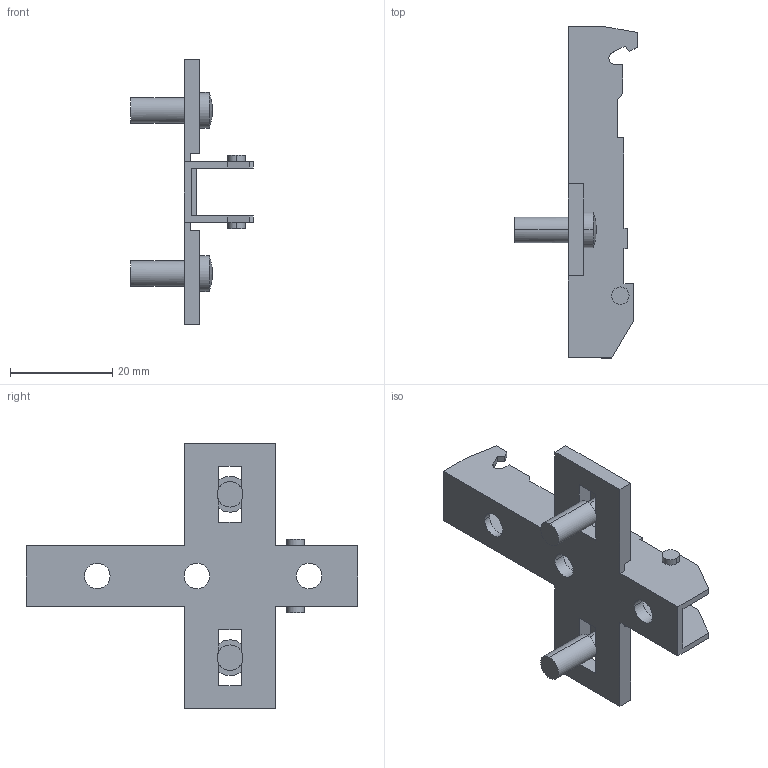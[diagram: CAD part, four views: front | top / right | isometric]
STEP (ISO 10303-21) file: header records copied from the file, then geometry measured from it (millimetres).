
FILE_DESCRIPTION (( 'STEP AP214' ), '1' );
FILE_NAME ('Eco Kreuzmontageplatte LR37_32_Dübel 5mm_lang_H03.step', '2010-11-18T10:07:36', ( 'grass' ), ( '' ), 'SwSTEP 2.0', 'SolidWorks 2010', '' );
FILE_SCHEMA (( 'AUTOMOTIVE_DESIGN' ));
Length unit declared in the file: millimetre
Products named in the file (1): Eco Kreuzmontageplatte LR37_32_Dübel 5mm_lang_H03
Bounding box: 24 x 65 x 52 mm (x, y, z)
Volume: 5167.5 mm3; surface area: 6691.9 mm2
Topology: 1 solids, 1 shells, 104 faces, 306 edges, 198 vertices
Faces by surface type: plane 76, cylinder 24, sphere 4
Entity records: 3512 total; most frequent: ORIENTED_EDGE 612, CARTESIAN_POINT 609, DIRECTION 584, EDGE_CURVE 306, VECTOR 238, LINE 238, VERTEX_POINT 198, AXIS2_PLACEMENT_3D 173
